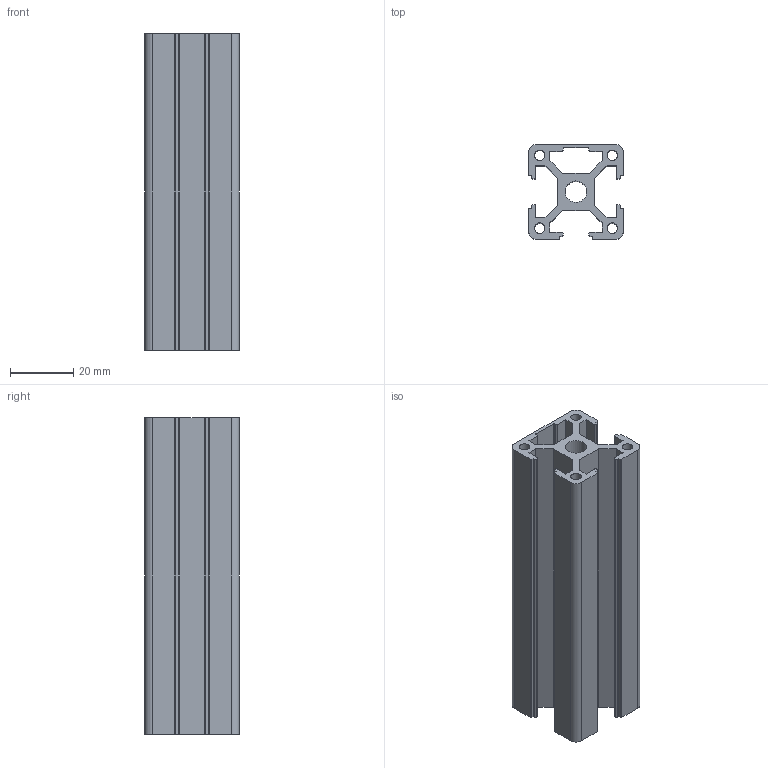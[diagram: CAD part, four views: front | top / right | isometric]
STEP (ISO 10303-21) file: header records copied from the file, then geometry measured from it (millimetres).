
FILE_DESCRIPTION((''),'2;1');
FILE_NAME('E:\catalogue and flyer\Profile catalogue 2015\profile-step file,31MAr16\PS3030-8, 1N.stp','2016-03-31T13:47:58',('h029'),(''),'Autodesk Inventor 11','Autodesk Inventor 11','');
FILE_SCHEMA(('AUTOMOTIVE_DESIGN { 1 0 10303 214 1 1 1 1 }'));
Length unit declared in the file: millimetre
Products named in the file (1): ps3030-8, 1N
Bounding box: 30 x 30 x 100 mm (x, y, z)
Volume: 35537.9 mm3; surface area: 31844.3 mm2
Topology: 1 solids, 1 shells, 89 faces, 261 edges, 174 vertices
Faces by surface type: plane 58, cylinder 31
Full cylindrical faces by diameter (mm): 3.3 x4, 6.8 x1
Entity records: 2979 total; most frequent: CARTESIAN_POINT 520, ORIENTED_EDGE 512, DIRECTION 498, EDGE_CURVE 256, VECTOR 194, LINE 194, VERTEX_POINT 174, AXIS2_PLACEMENT_3D 152
